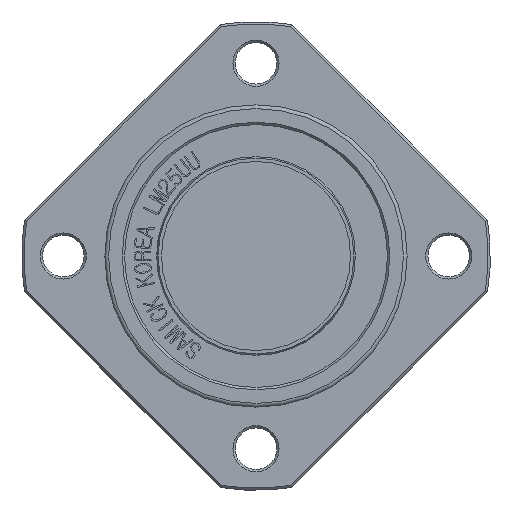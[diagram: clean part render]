
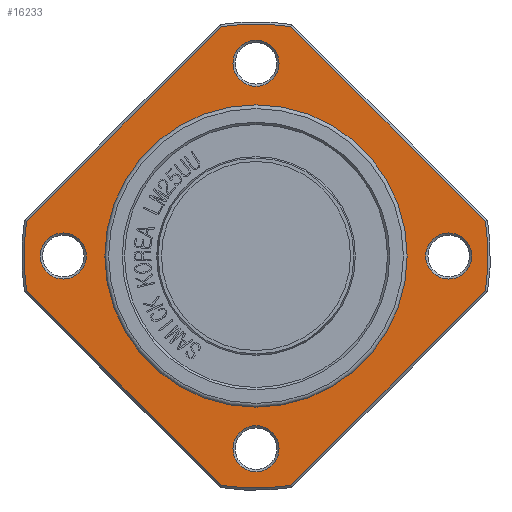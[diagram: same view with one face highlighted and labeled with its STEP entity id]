
A CAD part, front view. The second image highlights one B-rep face of the part: STEP entity #16233.
In plain terms, the highlighted planar face has unit normal (0, -1, 0).
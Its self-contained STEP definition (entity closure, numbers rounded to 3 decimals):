
#2304=FACE_BOUND('',#3515,.T.);
#2305=FACE_BOUND('',#3516,.T.);
#2306=FACE_BOUND('',#3517,.T.);
#2307=FACE_BOUND('',#3518,.T.);
#2308=FACE_BOUND('',#3519,.T.);
#2362=PLANE('',#17167);
#2611=FACE_OUTER_BOUND('',#3514,.T.);
#3514=EDGE_LOOP('',(#11186,#11187,#11188,#11189,#11190,#11191,#11192,#11193));
#3515=EDGE_LOOP('',(#11194));
#3516=EDGE_LOOP('',(#11195));
#3517=EDGE_LOOP('',(#11196,#11197));
#3518=EDGE_LOOP('',(#11198));
#3519=EDGE_LOOP('',(#11199));
#4472=LINE('',#19524,#5668);
#4473=LINE('',#19528,#5669);
#4474=LINE('',#19532,#5670);
#4475=LINE('',#19536,#5671);
#5668=VECTOR('',#17574,10.);
#5669=VECTOR('',#17577,10.);
#5670=VECTOR('',#17580,10.);
#5671=VECTOR('',#17583,10.);
#6871=CIRCLE('',#17165,3.05);
#6873=CIRCLE('',#17168,30.7);
#6874=CIRCLE('',#17169,30.7);
#6875=CIRCLE('',#17170,30.7);
#6876=CIRCLE('',#17171,30.7);
#6877=CIRCLE('',#17172,3.05);
#6878=CIRCLE('',#17173,3.05);
#6879=CIRCLE('',#17174,20.);
#6880=CIRCLE('',#17175,20.);
#6881=CIRCLE('',#17176,3.05);
#6965=VERTEX_POINT('',#19516);
#6967=VERTEX_POINT('',#19522);
#6968=VERTEX_POINT('',#19523);
#6969=VERTEX_POINT('',#19525);
#6970=VERTEX_POINT('',#19527);
#6971=VERTEX_POINT('',#19529);
#6972=VERTEX_POINT('',#19531);
#6973=VERTEX_POINT('',#19533);
#6974=VERTEX_POINT('',#19535);
#6975=VERTEX_POINT('',#19538);
#6976=VERTEX_POINT('',#19540);
#6977=VERTEX_POINT('',#19542);
#6978=VERTEX_POINT('',#19543);
#6979=VERTEX_POINT('',#19546);
#8651=EDGE_CURVE('',#6965,#6965,#6871,.T.);
#8654=EDGE_CURVE('',#6967,#6968,#4472,.T.);
#8655=EDGE_CURVE('',#6967,#6969,#6873,.T.);
#8656=EDGE_CURVE('',#6970,#6969,#4473,.T.);
#8657=EDGE_CURVE('',#6970,#6971,#6874,.T.);
#8658=EDGE_CURVE('',#6972,#6971,#4474,.T.);
#8659=EDGE_CURVE('',#6972,#6973,#6875,.T.);
#8660=EDGE_CURVE('',#6974,#6973,#4475,.T.);
#8661=EDGE_CURVE('',#6974,#6968,#6876,.T.);
#8662=EDGE_CURVE('',#6975,#6975,#6877,.T.);
#8663=EDGE_CURVE('',#6976,#6976,#6878,.T.);
#8664=EDGE_CURVE('',#6977,#6978,#6879,.T.);
#8665=EDGE_CURVE('',#6978,#6977,#6880,.T.);
#8666=EDGE_CURVE('',#6979,#6979,#6881,.T.);
#11186=ORIENTED_EDGE('',*,*,#8654,.F.);
#11187=ORIENTED_EDGE('',*,*,#8655,.T.);
#11188=ORIENTED_EDGE('',*,*,#8656,.F.);
#11189=ORIENTED_EDGE('',*,*,#8657,.T.);
#11190=ORIENTED_EDGE('',*,*,#8658,.F.);
#11191=ORIENTED_EDGE('',*,*,#8659,.T.);
#11192=ORIENTED_EDGE('',*,*,#8660,.F.);
#11193=ORIENTED_EDGE('',*,*,#8661,.T.);
#11194=ORIENTED_EDGE('',*,*,#8662,.F.);
#11195=ORIENTED_EDGE('',*,*,#8663,.F.);
#11196=ORIENTED_EDGE('',*,*,#8664,.F.);
#11197=ORIENTED_EDGE('',*,*,#8665,.F.);
#11198=ORIENTED_EDGE('',*,*,#8666,.F.);
#11199=ORIENTED_EDGE('',*,*,#8651,.F.);
#16233=ADVANCED_FACE('',(#2611,#2304,#2305,#2306,#2307,#2308),#2362,.T.);
#17165=AXIS2_PLACEMENT_3D('',#19517,#17567,#17568);
#17167=AXIS2_PLACEMENT_3D('',#19521,#17572,#17573);
#17168=AXIS2_PLACEMENT_3D('',#19526,#17575,#17576);
#17169=AXIS2_PLACEMENT_3D('',#19530,#17578,#17579);
#17170=AXIS2_PLACEMENT_3D('',#19534,#17581,#17582);
#17171=AXIS2_PLACEMENT_3D('',#19537,#17584,#17585);
#17172=AXIS2_PLACEMENT_3D('',#19539,#17586,#17587);
#17173=AXIS2_PLACEMENT_3D('',#19541,#17588,#17589);
#17174=AXIS2_PLACEMENT_3D('',#19544,#17590,#17591);
#17175=AXIS2_PLACEMENT_3D('',#19545,#17592,#17593);
#17176=AXIS2_PLACEMENT_3D('',#19547,#17594,#17595);
#17567=DIRECTION('center_axis',(0.,-1.,0.));
#17568=DIRECTION('ref_axis',(1.,0.,0.));
#17572=DIRECTION('center_axis',(0.,-1.,0.));
#17573=DIRECTION('ref_axis',(0.,0.,-1.));
#17574=DIRECTION('',(-0.707,0.,-0.707));
#17575=DIRECTION('center_axis',(0.,-1.,0.));
#17576=DIRECTION('ref_axis',(1.,0.,0.));
#17577=DIRECTION('',(0.707,0.,-0.707));
#17578=DIRECTION('center_axis',(0.,-1.,0.));
#17579=DIRECTION('ref_axis',(1.,0.,0.));
#17580=DIRECTION('',(0.707,0.,0.707));
#17581=DIRECTION('center_axis',(0.,-1.,0.));
#17582=DIRECTION('ref_axis',(1.,0.,0.));
#17583=DIRECTION('',(-0.707,0.,0.707));
#17584=DIRECTION('center_axis',(0.,-1.,0.));
#17585=DIRECTION('ref_axis',(1.,0.,0.));
#17586=DIRECTION('center_axis',(0.,-1.,0.));
#17587=DIRECTION('ref_axis',(0.,0.,-1.));
#17588=DIRECTION('center_axis',(0.,-1.,0.));
#17589=DIRECTION('ref_axis',(0.,0.,
1.));
#17590=DIRECTION('center_axis',(0.,-1.,0.));
#17591=DIRECTION('ref_axis',(1.,0.,0.));
#17592=DIRECTION('center_axis',(0.,-1.,0.));
#17593=DIRECTION('ref_axis',(1.,0.,0.));
#17594=DIRECTION('center_axis',(0.,-1.,0.));
#17595=DIRECTION('ref_axis',(-1.,0.,0.));
#19516=CARTESIAN_POINT('',(22.45,13.,0.));
#19517=CARTESIAN_POINT('Origin',(25.5,13.,0.));
#19521=CARTESIAN_POINT('Origin',(20.,13.,0.));
#19522=CARTESIAN_POINT('',(30.357,13.,-4.574));
#19523=CARTESIAN_POINT('',(4.574,13.,-30.357));
#19524=CARTESIAN_POINT('',(15.985,13.,-18.946));
#19525=CARTESIAN_POINT('',(30.357,13.,4.574));
#19526=CARTESIAN_POINT('Origin',(0.,13.,0.));
#19527=CARTESIAN_POINT('',(4.574,13.,30.357));
#19528=CARTESIAN_POINT('',(28.946,13.,5.985));
#19529=CARTESIAN_POINT('',(-4.574,13.,30.357));
#19530=CARTESIAN_POINT('Origin',(0.,13.,0.));
#19531=CARTESIAN_POINT('',(-30.357,13.,4.574));
#19532=CARTESIAN_POINT('',(-5.985,13.,28.946));
#19533=CARTESIAN_POINT('',(-30.357,13.,-4.574));
#19534=CARTESIAN_POINT('Origin',(0.,13.,0.));
#19535=CARTESIAN_POINT('',(-4.574,13.,-30.357));
#19536=CARTESIAN_POINT('',(-18.946,13.,-15.985));
#19537=CARTESIAN_POINT('Origin',(0.,13.,0.));
#19538=CARTESIAN_POINT('',(0.,13.,-22.45));
#19539=CARTESIAN_POINT('Origin',(0.,13.,-25.5));
#19540=CARTESIAN_POINT('',(0.,13.,22.45));
#19541=CARTESIAN_POINT('Origin',(0.,13.,25.5));
#19542=CARTESIAN_POINT('',(20.,13.,0.));
#19543=CARTESIAN_POINT('',(-20.,13.,0.));
#19544=CARTESIAN_POINT('Origin',(0.,13.,0.));
#19545=CARTESIAN_POINT('Origin',(0.,13.,0.));
#19546=CARTESIAN_POINT('',(-22.45,13.,0.));
#19547=CARTESIAN_POINT('Origin',(-25.5,13.,0.));
